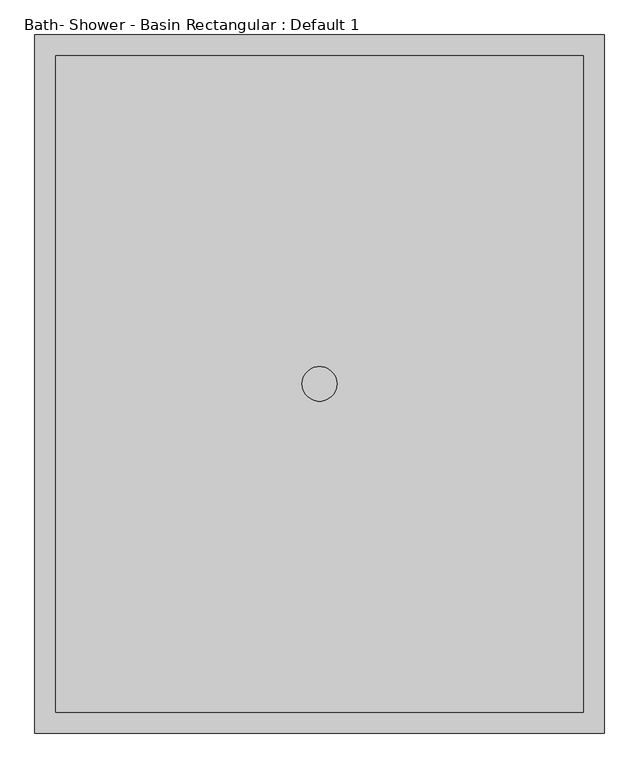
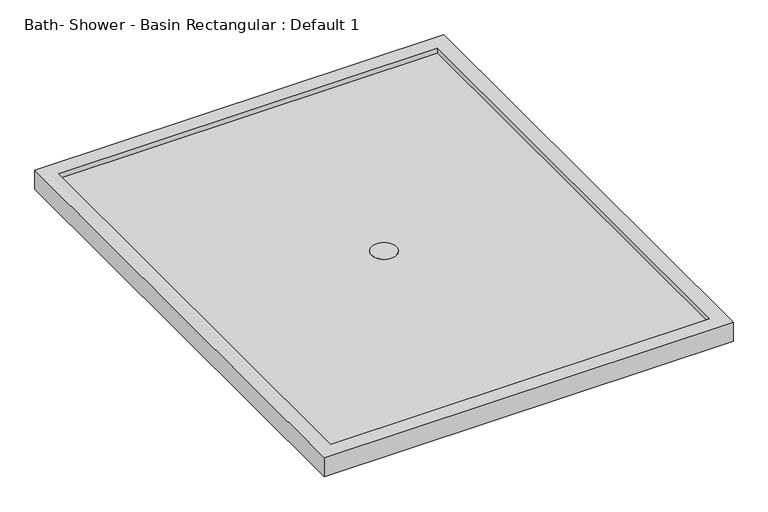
"""IFC4 building model written with IfcOpenShell, lengths in millimetres: flow terminal geometry, Bath- Shower - Basin Rectangular : Default 1."""

from ifc_helpers import new_model, si_unit, point, frame_2d, origin, origin_with_axes, place, context, project, spatial, circle_curve, trimmed, segment, composite_curve, outline, extrude, faceted_brep, source, transform, mapped, element, save


def bath_shower_basin_rectangular_default_1_dcf8d1a9(model_context):
    return source(origin(), model_context, "Body", "SolidModel", [
        extrude(outline(composite_curve([segment(trimmed(circle_curve(frame_2d((0.1, 0.15)), 31.75), [point((-31.65, 0.15))], [point((31.85, 0.15))], False, "CARTESIAN"), True, "CONTINUOUS"), segment(trimmed(circle_curve(frame_2d((0.1, 0.15)), 31.75), [point((31.85, 0.15))], [point((-31.65, 0.15))], False, "CARTESIAN"), True, "CONTINUOUS")], self_intersect=False)), origin_with_axes(), (0.0, 0.0, 1.0), 38.1),
        faceted_brep([(520.7, 638.175, 50.8), (-520.7, 638.175, 50.8), (-520.7, -638.175, 50.8), (520.7, -638.175, 50.8), (-482.6, 600.075, 50.8), (482.6, 600.075, 50.8), (482.6, -600.075, 50.8), (-482.6, -600.075, 50.8), (520.7, 638.175, 0.0), (520.7, -638.175, 0.0), (-520.7, -638.175, 0.0), (-520.7, 638.175, 0.0), (482.6, 600.075, 38.1), (-482.6, 600.075, 38.1), (-482.6, -600.075, 38.1), (482.6, -600.075, 38.1)], [[[0, 1, 2, 3], [4, 5, 6, 7]], [[8, 9, 10, 11]], [[1, 0, 8, 11]], [[2, 1, 11, 10]], [[3, 2, 10, 9]], [[0, 3, 9, 8]], [[12, 13, 14, 15]], [[13, 12, 5, 4]], [[14, 13, 4, 7]], [[15, 14, 7, 6]], [[12, 15, 6, 5]]]),
    ])


if __name__ == "__main__":
    model = new_model("IFC4")
    model_context = context("Model", 3, world=origin())
    ifc_project = project(units=[si_unit("LENGTHUNIT", "METRE", prefix="MILLI")], contexts=[model_context])
    site = spatial("IfcSite", under=ifc_project)
    building = spatial("IfcBuilding", under=site)
    placement = place(None, origin())
    bath_shower_basin_rectangular_default_1_shape = bath_shower_basin_rectangular_default_1_dcf8d1a9(model_context)
    element("IfcFlowTerminal", 1, ObjectType="Bath- Shower - Basin Rectangular : Default 1", at=placement, inside=building, context=model_context, shape_type="MappedRepresentation", body=[
        mapped(bath_shower_basin_rectangular_default_1_shape, transform((0.0, 0.0, 0.0), x_axis=(1.0, 0.0, 0.0), y_axis=(0.0, 1.0, 0.0), z_axis=(0.0, 0.0, 1.0))),
    ])
    save(model, "model.ifc")
